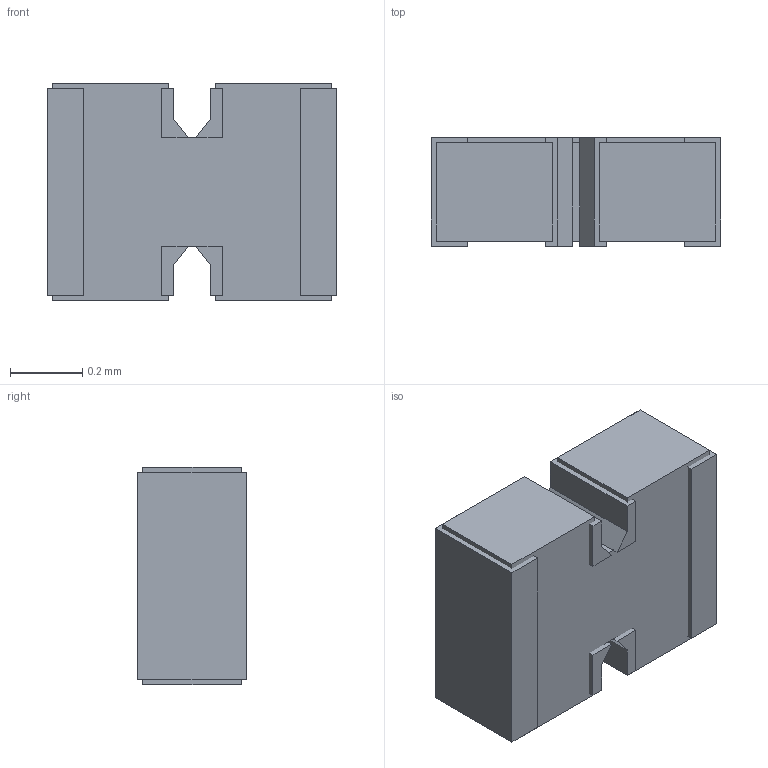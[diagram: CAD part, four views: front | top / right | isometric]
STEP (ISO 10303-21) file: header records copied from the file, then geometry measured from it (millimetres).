
FILE_DESCRIPTION(/* description */ (''),/* implementation_level */ '2;1');
FILE_NAME(/* name */ 'C:\Users\mulla\Documents\Work\SEI Models\Inventor Files\RAVF\RAVF052D_stp.stp',/* time_stamp */ '2019-08-15T22:02:27-04:00',/* author */ ('mulla'),/* organization */ (''),/* preprocessor_version */ 'ST-DEVELOPER v16.1',/* originating_system */ 'Autodesk Inventor 2016',/* authorisation */ '');
FILE_SCHEMA (('AUTOMOTIVE_DESIGN { 1 0 10303 214 3 1 1 }'));
Length unit declared in the file: millimetre
Products named in the file (1): RAVF052D
Bounding box: 0.8 x 0.3 x 0.6 mm (x, y, z)
Volume: 0.2 mm3; surface area: 3.7 mm2
Topology: 8 solids, 8 shells, 64 faces, 144 edges, 96 vertices
Faces by surface type: plane 64
Entity records: 1850 total; most frequent: CARTESIAN_POINT 305, ORIENTED_EDGE 288, DIRECTION 274, LINE 144, VECTOR 144, EDGE_CURVE 144, VERTEX_POINT 96, STYLED_ITEM 72
